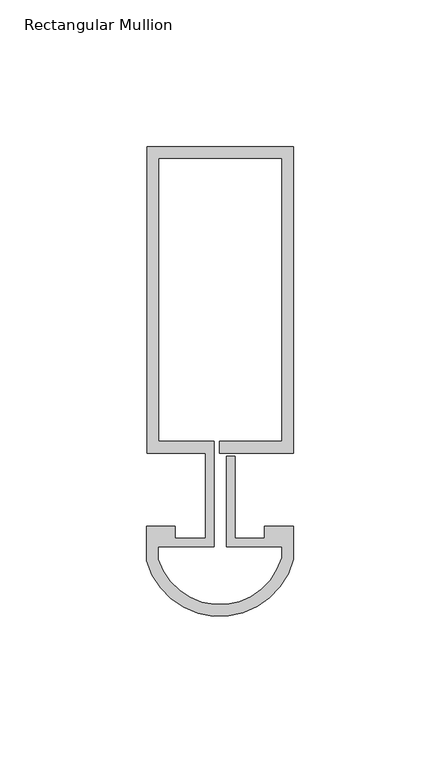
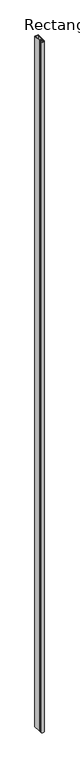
"""IFC4 building model written with IfcOpenShell, lengths in millimetres: member geometry, Rectangular Mullion : Reynaers_CW-50_Mullion-Transom_Vertical_104.5mm_Facecap-07."""

from ifc_helpers import new_model, si_unit, point, frame, frame_2d, origin, place, context, project, spatial, polyline, circle_curve, trimmed, segment, composite_curve, outline, extrude, source, transform, mapped, element, save


def rectangular_mullion_c52cbcee(model_context):
    return source(origin(), model_context, "Body", "SweptSolid", [
        extrude(outline(composite_curve([segment(polyline([(-24.8004059, 117.0), (25.1995941, 117.0), (25.1995941, 12.5), (0.0, 12.5), (0.0, 16.5), (21.1995941, 16.5), (21.1995941, 113.0), (-20.8004059, 113.0), (-20.8004059, 16.5), (-1.9004059, 16.5), (-1.9004059, -19.5), (-20.994845, -19.5), (-20.994845, -23.684232)]), True, "CONTINUOUS"), segment(trimmed(circle_curve(frame_2d((0.0217873, -17.1383151)), 22.0124479), [point((-20.994845, -23.684232))], [point((21.1995941, -23.1423436))], True, "CARTESIAN"), True, "CONTINUOUS"), segment(polyline([(21.1995941, -23.1423436), (21.1995941, -19.5), (2.2995941, -19.5), (2.2995941, 11.5), (5.2995941, 11.5), (5.2995941, -16.5), (15.2996495, -16.5), (15.2996495, -12.5), (25.1995941, -12.5), (25.1995941, -23.6747887)]), True, "CONTINUOUS"), segment(trimmed(circle_curve(frame_2d((0.0217873, -17.1383151)), 26.0124479), [point((25.1995941, -23.6747887))], [point((-24.994845, -24.2668179))], False, "CARTESIAN"), True, "CONTINUOUS"), segment(polyline([(-24.994845, -24.2668179), (-24.994845, -12.5), (-15.2996495, -12.5), (-15.2996495, -16.5), (-4.9004059, -16.5), (-4.9004059, 12.5), (-24.8004059, 12.5), (-24.8004059, 117.0)]), True, "CONTINUOUS")], self_intersect=False)), frame((0.0, 0.0, -10400.0), z_axis=(0.0, 0.0, 1.0), x_axis=(1.0, 0.0, 0.0)), (0.0, 0.0, 1.0), 10400.0),
    ])


if __name__ == "__main__":
    model = new_model("IFC4")
    model_context = context("Model", 3, world=origin())
    ifc_project = project(units=[si_unit("LENGTHUNIT", "METRE", prefix="MILLI")], contexts=[model_context])
    site = spatial("IfcSite", under=ifc_project)
    building = spatial("IfcBuilding", under=site)
    placement = place(None, origin())
    rectangular_mullion_shape = rectangular_mullion_c52cbcee(model_context)
    element("IfcMember", 1, ObjectType="Rectangular Mullion : Reynaers_CW-50_Mullion-Transom_Vertical_104.5mm_Facecap-07", at=placement, inside=building, context=model_context, shape_type="MappedRepresentation", body=[
        mapped(rectangular_mullion_shape, transform((0.0, 0.0, 0.0), x_axis=(1.0, 0.0, 0.0), y_axis=(0.0, 1.0, 0.0), z_axis=(0.0, 0.0, 1.0))),
    ])
    save(model, "model.ifc")
